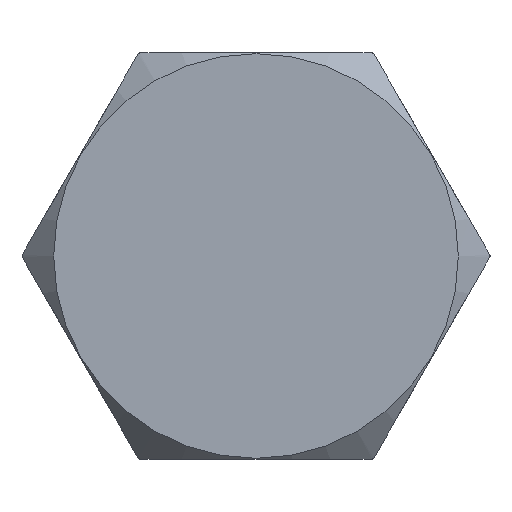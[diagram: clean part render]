
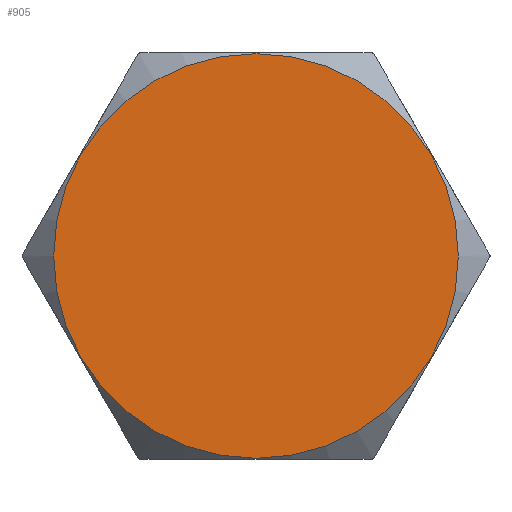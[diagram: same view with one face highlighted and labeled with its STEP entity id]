
A CAD part, front view. The second image highlights one B-rep face of the part: STEP entity #905.
In plain terms, the highlighted planar face has unit normal (0, -1, 0).
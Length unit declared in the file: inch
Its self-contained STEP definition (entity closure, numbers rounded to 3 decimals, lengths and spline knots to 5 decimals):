
#57=PLANE('',#1042);
#201=FACE_OUTER_BOUND('',#257,.T.);
#257=EDGE_LOOP('',(#780));
#324=CIRCLE('',#1039,0.498);
#426=VERTEX_POINT('',#1680);
#548=EDGE_CURVE('',#426,#426,#324,.T.);
#780=ORIENTED_EDGE('',*,*,#548,.F.);
#905=ADVANCED_FACE('',(#201),#57,.T.);
#1039=AXIS2_PLACEMENT_3D('',#1681,#1276,#1277);
#1042=AXIS2_PLACEMENT_3D('',#1685,#1283,#1284);
#1276=DIRECTION('center_axis',(0.,1.,0.));
#1277=DIRECTION('ref_axis',(0.,0.,1.));
#1283=DIRECTION('center_axis',(0.,-1.,0.));
#1284=DIRECTION('ref_axis',(0.,0.,-1.));
#1680=CARTESIAN_POINT('',(0.,0.,-0.498));
#1681=CARTESIAN_POINT('Origin',(0.,0.,0.));
#1685=CARTESIAN_POINT('Origin',(0.,0.,0.));
